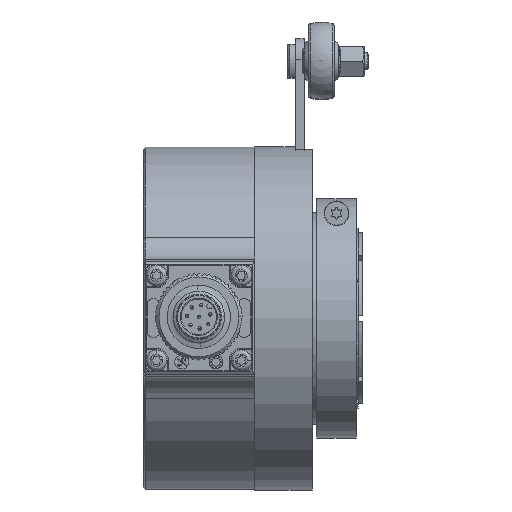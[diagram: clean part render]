
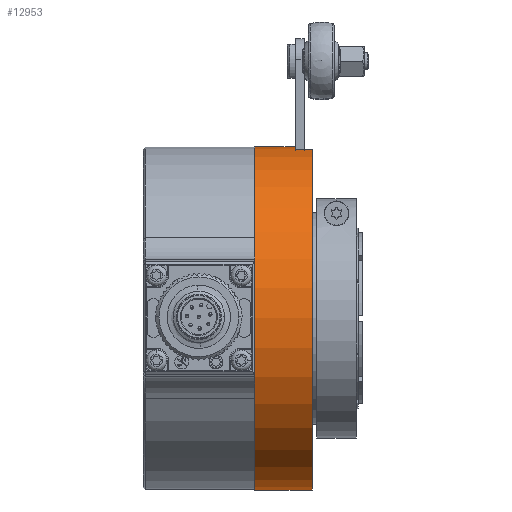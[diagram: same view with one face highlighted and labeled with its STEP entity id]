
A CAD part, top view. The second image highlights one B-rep face of the part: STEP entity #12953.
In plain terms, the highlighted cylindrical face has radius 40.075 mm (diameter 80.15 mm), a partial arc.
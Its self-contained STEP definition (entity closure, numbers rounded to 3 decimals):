
#405 = CARTESIAN_POINT ( 'NONE',  ( 9.5, 39.468, 6.95 ) ) ;
#624 = CARTESIAN_POINT ( 'NONE',  ( -12.775, 39.468, 6.95 ) ) ;
#2349 = EDGE_CURVE ( 'NONE', #56076, #15998, #3042, .T. ) ;
#3042 = LINE ( 'NONE', #27193, #58874 ) ;
#3048 = ORIENTED_EDGE ( 'NONE', *, *, #14528, .T. ) ;
#3071 = EDGE_CURVE ( 'NONE', #15998, #40545, #16847, .T. ) ;
#3278 = DIRECTION ( 'NONE',  ( 0., 1., 0. ) ) ;
#4892 = CARTESIAN_POINT ( 'NONE',  ( -12.775, 40.075, 0. ) ) ;
#6421 = ORIENTED_EDGE ( 'NONE', *, *, #3071, .F. ) ;
#7441 = EDGE_CURVE ( 'NONE', #56076, #12060, #57888, .T. ) ;
#7980 = DIRECTION ( 'NONE',  ( -1., 0., 0. ) ) ;
#11271 = AXIS2_PLACEMENT_3D ( 'NONE', #58402, #61875, #33391 ) ;
#11865 = ORIENTED_EDGE ( 'NONE', *, *, #47093, .T. ) ;
#12060 = VERTEX_POINT ( 'NONE', #12889 ) ;
#12738 = CARTESIAN_POINT ( 'NONE',  ( 9.5, 40.075, 0. ) ) ;
#12889 = CARTESIAN_POINT ( 'NONE',  ( 13.5, 39.468, 6.95 ) ) ;
#12953 = ADVANCED_FACE ( 'NONE', ( #61553 ), #36514, .T. ) ;
#14528 = EDGE_CURVE ( 'NONE', #42323, #20648, #56368, .T. ) ;
#14571 = LINE ( 'NONE', #4892, #17811 ) ;
#15307 = CARTESIAN_POINT ( 'NONE',  ( 0., 0., 0. ) ) ;
#15845 = AXIS2_PLACEMENT_3D ( 'NONE', #15307, #28869, #20337 ) ;
#15998 = VERTEX_POINT ( 'NONE', #59569 ) ;
#16847 = CIRCLE ( 'NONE', #15845, 40.075 ) ;
#17659 = ORIENTED_EDGE ( 'NONE', *, *, #7441, .T. ) ;
#17811 = VECTOR ( 'NONE', #33140, 1000. ) ;
#18692 = ORIENTED_EDGE ( 'NONE', *, *, #40830, .T. ) ;
#20337 = DIRECTION ( 'NONE',  ( 0., 1., 0. ) ) ;
#20648 = VERTEX_POINT ( 'NONE', #12738 ) ;
#27193 = CARTESIAN_POINT ( 'NONE',  ( -12.775, -40.075, 0. ) ) ;
#28869 = DIRECTION ( 'NONE',  ( -1., 0., 0. ) ) ;
#32962 = LINE ( 'NONE', #624, #36370 ) ;
#33140 = DIRECTION ( 'NONE',  ( -1., 0., 0. ) ) ;
#33391 = DIRECTION ( 'NONE',  ( 0., 1., 0. ) ) ;
#36370 = VECTOR ( 'NONE', #52359, 1000. ) ;
#36514 = CYLINDRICAL_SURFACE ( 'NONE', #39347, 40.075 ) ;
#38042 = ORIENTED_EDGE ( 'NONE', *, *, #2349, .F. ) ;
#38828 = CARTESIAN_POINT ( 'NONE',  ( 13.5, -40.075, 0. ) ) ;
#39347 = AXIS2_PLACEMENT_3D ( 'NONE', #50921, #7980, #3278 ) ;
#40545 = VERTEX_POINT ( 'NONE', #40796 ) ;
#40796 = CARTESIAN_POINT ( 'NONE',  ( 0., 40.075, 0. ) ) ;
#40830 = EDGE_CURVE ( 'NONE', #12060, #42323, #32962, .T. ) ;
#41144 = DIRECTION ( 'NONE',  ( -1., 0., 0. ) ) ;
#42323 = VERTEX_POINT ( 'NONE', #405 ) ;
#46457 = EDGE_LOOP ( 'NONE', ( #38042, #17659, #18692, #3048, #11865, #6421 ) ) ;
#47093 = EDGE_CURVE ( 'NONE', #20648, #40545, #14571, .T. ) ;
#49896 = DIRECTION ( 'NONE',  ( 0., 1., 0. ) ) ;
#50921 = CARTESIAN_POINT ( 'NONE',  ( -12.775, 0., 0. ) ) ;
#51615 = DIRECTION ( 'NONE',  ( -1., 0., 0. ) ) ;
#51859 = AXIS2_PLACEMENT_3D ( 'NONE', #59924, #41144, #49896 ) ;
#52359 = DIRECTION ( 'NONE',  ( -1., 0., 0. ) ) ;
#56076 = VERTEX_POINT ( 'NONE', #38828 ) ;
#56368 = CIRCLE ( 'NONE', #11271, 40.075 ) ;
#57888 = CIRCLE ( 'NONE', #51859, 40.075 ) ;
#58402 = CARTESIAN_POINT ( 'NONE',  ( 9.5, 0., 0. ) ) ;
#58874 = VECTOR ( 'NONE', #51615, 1000. ) ;
#59569 = CARTESIAN_POINT ( 'NONE',  ( 0., -40.075, 0. ) ) ;
#59924 = CARTESIAN_POINT ( 'NONE',  ( 13.5, 0., 0. ) ) ;
#61553 = FACE_OUTER_BOUND ( 'NONE', #46457, .T. ) ;
#61875 = DIRECTION ( 'NONE',  ( -1., 0., 0. ) ) ;
